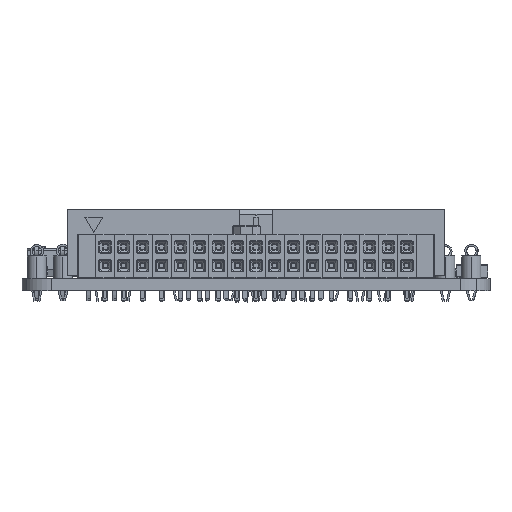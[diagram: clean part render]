
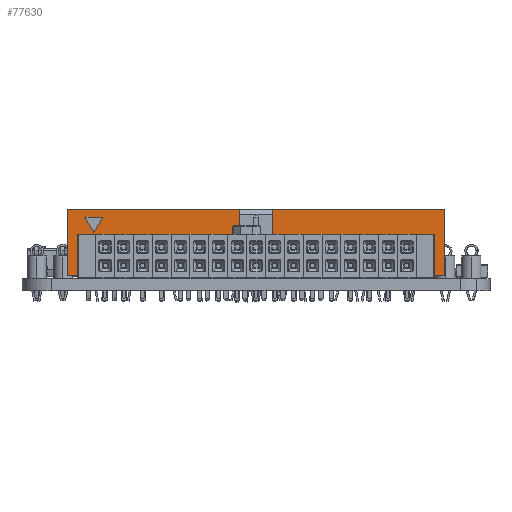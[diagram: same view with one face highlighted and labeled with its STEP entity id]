
A CAD part, left-side view. The second image highlights one B-rep face of the part: STEP entity #77630.
In plain terms, the highlighted planar face has unit normal (-1, 0, 0) as drawn and (0, -1, 0) by its records, which use the part's own axes.
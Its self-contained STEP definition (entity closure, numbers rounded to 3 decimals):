
#76131 = VERTEX_POINT('',#76132);
#76132 = CARTESIAN_POINT('',(5.07,-2.93,-2.27));
#76138 = EDGE_CURVE('',#76139,#76131,#76141,.T.);
#76139 = VERTEX_POINT('',#76140);
#76140 = CARTESIAN_POINT('',(-45.71,-2.93,-2.27));
#76141 = LINE('',#76142,#76143);
#76142 = CARTESIAN_POINT('',(5.07,-2.93,-2.27));
#76143 = VECTOR('',#76144,1.);
#76144 = DIRECTION('',(1.,0.,0.));
#76301 = VERTEX_POINT('',#76302);
#76302 = CARTESIAN_POINT('',(5.07,-2.93,6.63));
#76308 = EDGE_CURVE('',#76301,#76131,#76309,.T.);
#76309 = LINE('',#76310,#76311);
#76310 = CARTESIAN_POINT('',(5.07,-2.93,-2.27));
#76311 = VECTOR('',#76312,1.);
#76312 = DIRECTION('',(0.,0.,-1.));
#76324 = VERTEX_POINT('',#76325);
#76325 = CARTESIAN_POINT('',(-45.71,-2.93,6.63));
#76331 = EDGE_CURVE('',#76324,#76332,#76334,.T.);
#76332 = VERTEX_POINT('',#76333);
#76333 = CARTESIAN_POINT('',(-22.57,-2.93,6.63));
#76334 = LINE('',#76335,#76336);
#76335 = CARTESIAN_POINT('',(-20.32,-2.93,6.63));
#76336 = VECTOR('',#76337,1.);
#76337 = DIRECTION('',(1.,0.,-0.));
#76388 = VERTEX_POINT('',#76389);
#76389 = CARTESIAN_POINT('',(-18.07,-2.93,6.63));
#76395 = EDGE_CURVE('',#76388,#76301,#76396,.T.);
#76396 = LINE('',#76397,#76398);
#76397 = CARTESIAN_POINT('',(-20.32,-2.93,6.63));
#76398 = VECTOR('',#76399,1.);
#76399 = DIRECTION('',(1.,0.,-0.));
#76436 = EDGE_CURVE('',#76139,#76324,#76437,.T.);
#76437 = LINE('',#76438,#76439);
#76438 = CARTESIAN_POINT('',(-45.71,-2.93,-2.27));
#76439 = VECTOR('',#76440,1.);
#76440 = DIRECTION('',(0.,0.,1.));
#77630 = ADVANCED_FACE('',(#77631,#77657),#77686,.T.);
#77631 = FACE_BOUND('',#77632,.T.);
#77632 = EDGE_LOOP('',(#77633,#77643,#77651));
#77633 = ORIENTED_EDGE('',*,*,#77634,.T.);
#77634 = EDGE_CURVE('',#77635,#77637,#77639,.T.);
#77635 = VERTEX_POINT('',#77636);
#77636 = CARTESIAN_POINT('',(-42.154,-2.93,3.516));
#77637 = VERTEX_POINT('',#77638);
#77638 = CARTESIAN_POINT('',(-43.354,-2.93,5.594));
#77639 = LINE('',#77640,#77641);
#77640 = CARTESIAN_POINT('',(-42.154,-2.93,3.516));
#77641 = VECTOR('',#77642,1.);
#77642 = DIRECTION('',(-0.5,0.,0.866));
#77643 = ORIENTED_EDGE('',*,*,#77644,.T.);
#77644 = EDGE_CURVE('',#77637,#77645,#77647,.T.);
#77645 = VERTEX_POINT('',#77646);
#77646 = CARTESIAN_POINT('',(-40.954,-2.93,5.594));
#77647 = LINE('',#77648,#77649);
#77648 = CARTESIAN_POINT('',(5.07,-2.93,5.594));
#77649 = VECTOR('',#77650,1.);
#77650 = DIRECTION('',(1.,0.,0.));
#77651 = ORIENTED_EDGE('',*,*,#77652,.T.);
#77652 = EDGE_CURVE('',#77645,#77635,#77653,.T.);
#77653 = LINE('',#77654,#77655);
#77654 = CARTESIAN_POINT('',(-40.954,-2.93,5.594));
#77655 = VECTOR('',#77656,1.);
#77656 = DIRECTION('',(-0.5,0.,-0.866));
#77657 = FACE_BOUND('',#77658,.T.);
#77658 = EDGE_LOOP('',(#77659,#77667,#77675,#77681,#77682,#77683,#77684,
    #77685));
#77659 = ORIENTED_EDGE('',*,*,#77660,.T.);
#77660 = EDGE_CURVE('',#76388,#77661,#77663,.T.);
#77661 = VERTEX_POINT('',#77662);
#77662 = CARTESIAN_POINT('',(-18.07,-2.93,0.));
#77663 = LINE('',#77664,#77665);
#77664 = CARTESIAN_POINT('',(-18.07,-2.93,-2.27));
#77665 = VECTOR('',#77666,1.);
#77666 = DIRECTION('',(0.,-0.,-1.));
#77667 = ORIENTED_EDGE('',*,*,#77668,.T.);
#77668 = EDGE_CURVE('',#77661,#77669,#77671,.T.);
#77669 = VERTEX_POINT('',#77670);
#77670 = CARTESIAN_POINT('',(-22.57,-2.93,0.));
#77671 = LINE('',#77672,#77673);
#77672 = CARTESIAN_POINT('',(5.07,-2.93,0.));
#77673 = VECTOR('',#77674,1.);
#77674 = DIRECTION('',(-1.,-0.,-0.));
#77675 = ORIENTED_EDGE('',*,*,#77676,.T.);
#77676 = EDGE_CURVE('',#77669,#76332,#77677,.T.);
#77677 = LINE('',#77678,#77679);
#77678 = CARTESIAN_POINT('',(-22.57,-2.93,-2.27));
#77679 = VECTOR('',#77680,1.);
#77680 = DIRECTION('',(-0.,0.,1.));
#77681 = ORIENTED_EDGE('',*,*,#76331,.F.);
#77682 = ORIENTED_EDGE('',*,*,#76436,.F.);
#77683 = ORIENTED_EDGE('',*,*,#76138,.T.);
#77684 = ORIENTED_EDGE('',*,*,#76308,.F.);
#77685 = ORIENTED_EDGE('',*,*,#76395,.F.);
#77686 = PLANE('',#77687);
#77687 = AXIS2_PLACEMENT_3D('',#77688,#77689,#77690);
#77688 = CARTESIAN_POINT('',(5.07,-2.93,-2.27));
#77689 = DIRECTION('',(0.,-1.,0.));
#77690 = DIRECTION('',(0.,-0.,-1.));
